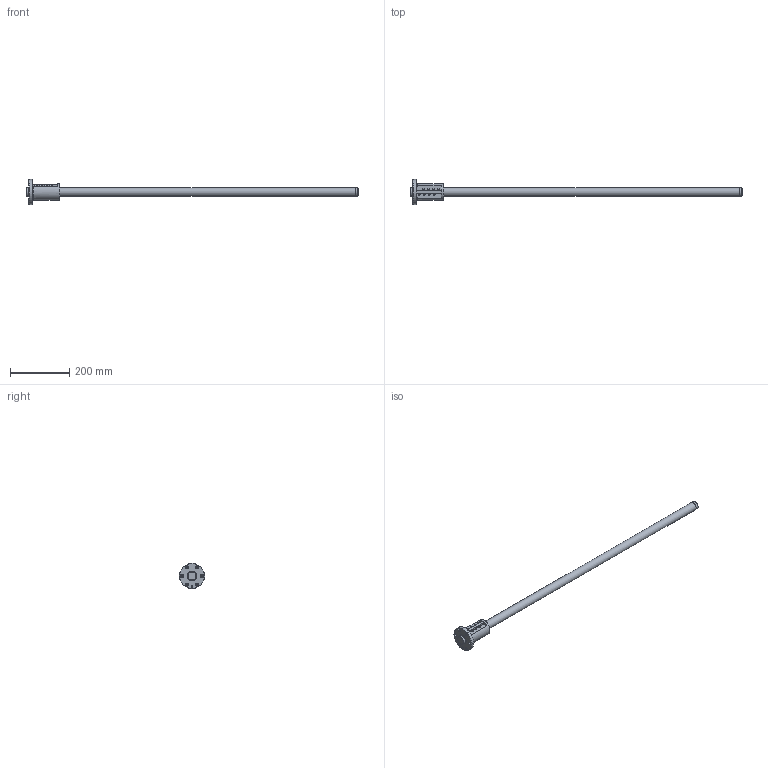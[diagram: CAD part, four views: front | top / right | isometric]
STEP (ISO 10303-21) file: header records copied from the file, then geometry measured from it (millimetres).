
FILE_DESCRIPTION( ( 'STEP AP203' ), ' ' );
FILE_NAME( 'p:/temp/worker_20/2584_100/app_90_12018011811370093743514818fa3fd_000000_00_00_000000/format_0/BIF2806-10RRG0+1124LC0_10000.stp', '2018-01-18T10:37:02', ( '' ), ( '' ), ' ', 'PARTsolutions', ' ' );
FILE_SCHEMA( ( 'CONFIG_CONTROL_DESIGN' ) );
Length unit declared in the file: millimetre
Products named in the file (3): BIF2806-10RRG0+1124LC0_10000; _BIF 2806-10RR1000500 Shaft; _BIF 2806-10RR Nut
Assembly tree (2 placements, depth 2):
  BIF2806-10RRG0+1124LC0_10000
    _BIF 2806-10RR1000500 Shaft
    _BIF 2806-10RR Nut
Bounding box: 1124 x 85 x 85 mm (x, y, z)
Volume: 890679 mm3; surface area: 142250 mm2
Topology: 2 solids, 2 shells, 98 faces, 218 edges, 144 vertices
Faces by surface type: cylinder 47, plane 35, cone 8, torus 8
Full cylindrical faces by diameter (mm): 4.25 x2, 4.917 x1, 5.1 x8, 6.6 x6, 11 x6, 27.5 x2, 28 x4, 33 x2, 55 x1, 85 x1
Entity records: 3258 total; most frequent: CARTESIAN_POINT 1065, DIRECTION 456, ORIENTED_EDGE 326, AXIS2_PLACEMENT_3D 208, EDGE_LOOP 191, EDGE_CURVE 163, VERTEX_POINT 137, FACE_OUTER_BOUND 131
